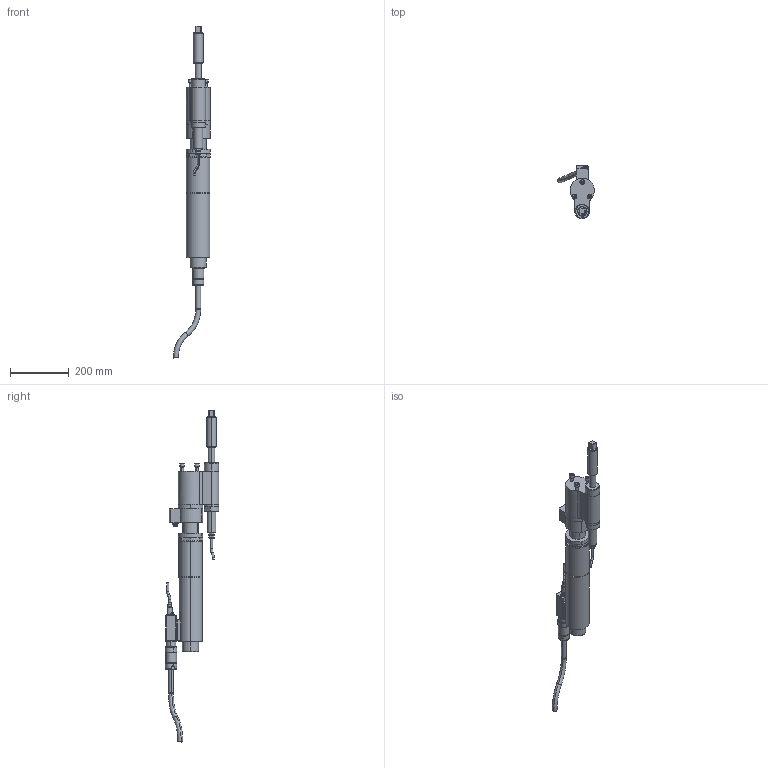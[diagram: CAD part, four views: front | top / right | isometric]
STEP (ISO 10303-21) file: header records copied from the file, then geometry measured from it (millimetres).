
FILE_DESCRIPTION(('CATIA V5 STEP'),'2;1');
FILE_NAME('O:\3D-Schrauber\stp\7920241_ECR326_DWR300_AOD350-300_AllCATPart.stp','2010-05-05T11:00:01+00:00',('none'),('none'),'CATIA Version 5 Release 19 SP 3 (IN-10)','CATIA V5 STEP AP214','none');
FILE_SCHEMA(('AUTOMOTIVE_DESIGN { 1 0 10303 214 1 1 1 1 }'));
Length unit declared in the file: millimetre
Products named in the file (1): 7920241_ECR326_DWR300_AOD350-300_AllCATPart
Bounding box: 125.32 x 182.98 x 1130.16 mm (x, y, z)
Volume: 4001291 mm3; surface area: 337140.5 mm2
Topology: 17 solids, 17 shells, 433 faces, 953 edges, 595 vertices
Faces by surface type: plane 178, cylinder 159, cone 58, torus 38
Entity records: 11247 total; most frequent: CARTESIAN_POINT 2180, ORIENTED_EDGE 1894, DIRECTION 1557, EDGE_CURVE 947, AXIS2_PLACEMENT_3D 788, VERTEX_POINT 595, EDGE_LOOP 480, CIRCLE 462
